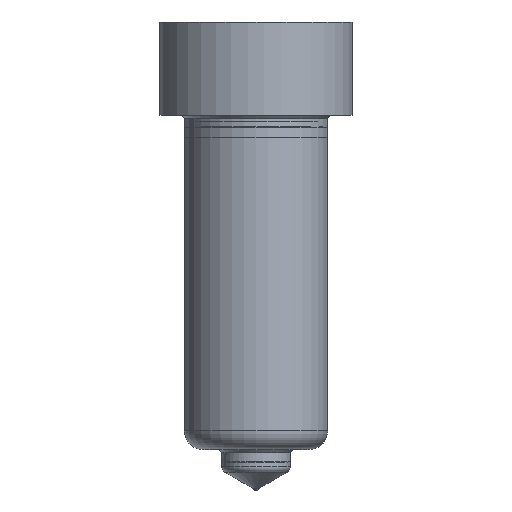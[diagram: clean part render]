
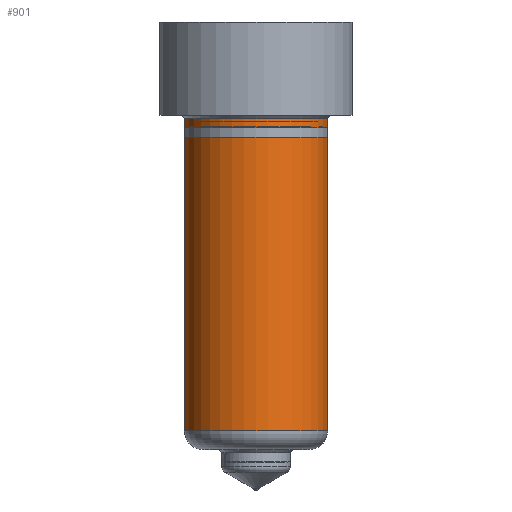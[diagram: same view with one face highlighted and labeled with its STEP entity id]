
A CAD part, left-side view. The second image highlights one B-rep face of the part: STEP entity #901.
In plain terms, the highlighted cylindrical face has radius 11.5 mm (diameter 23 mm), a full revolution.
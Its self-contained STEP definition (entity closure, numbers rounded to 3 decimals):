
#551=CYLINDRICAL_SURFACE('',#3557,11.5);
#705=FACE_BOUND('',#1422,.T.);
#706=FACE_BOUND('',#1423,.T.);
#901=ADVANCED_FACE('',(#705,#706),#551,.T.);
#1422=EDGE_LOOP('',(#2249));
#1423=EDGE_LOOP('',(#2250));
#2249=ORIENTED_EDGE('',*,*,#3019,.T.);
#2250=ORIENTED_EDGE('',*,*,#3020,.F.);
#2594=VERTEX_POINT('',#6363);
#2595=VERTEX_POINT('',#6365);
#3019=EDGE_CURVE('',#2594,#2594,#3179,.T.);
#3020=EDGE_CURVE('',#2595,#2595,#3180,.T.);
#3179=CIRCLE('',#3555,11.5);
#3180=CIRCLE('',#3556,11.5);
#3555=AXIS2_PLACEMENT_3D('',#6362,#4497,#4498);
#3556=AXIS2_PLACEMENT_3D('',#6364,#4499,#4500);
#3557=AXIS2_PLACEMENT_3D('',#6366,#4501,#4502);
#4497=DIRECTION('',(0.,0.,1.));
#4498=DIRECTION('',(0.,-1.,0.));
#4499=DIRECTION('',(0.,0.,1.));
#4500=DIRECTION('',(1.,0.,0.));
#4501=DIRECTION('',(0.,0.,1.));
#4502=DIRECTION('',(0.,-1.,0.));
#6362=CARTESIAN_POINT('',(0.,0.,9.5));
#6363=CARTESIAN_POINT('',(0.,-11.5,9.5));
#6364=CARTESIAN_POINT('',(0.,0.,59.65));
#6365=CARTESIAN_POINT('',(11.5,0.,59.65));
#6366=CARTESIAN_POINT('',(0.,0.,0.));
